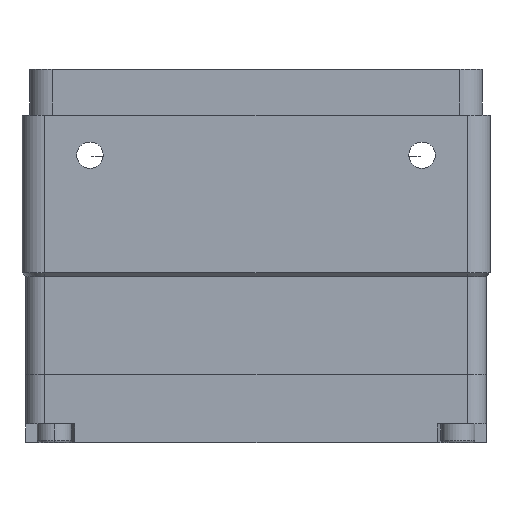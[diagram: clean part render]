
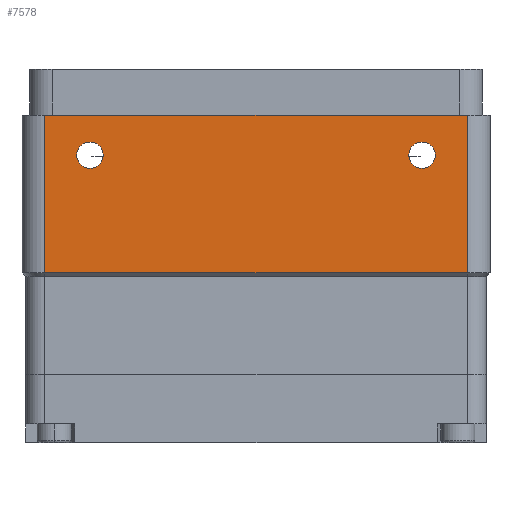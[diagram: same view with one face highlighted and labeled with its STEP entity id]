
A CAD part, left-side view. The second image highlights one B-rep face of the part: STEP entity #7578.
In plain terms, the highlighted planar face has unit normal (-1, 0, 0).
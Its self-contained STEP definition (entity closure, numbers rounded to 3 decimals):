
#305 = CIRCLE ( 'NONE', #12755, 1.75 ) ;
#697 = EDGE_CURVE ( 'NONE', #12706, #8759, #18362, .T. ) ;
#820 = ORIENTED_EDGE ( 'NONE', *, *, #9645, .F. ) ;
#831 = DIRECTION ( 'NONE',  ( 0., -1., 0. ) ) ;
#997 = DIRECTION ( 'NONE',  ( 0., 0., 1. ) ) ;
#1488 = CARTESIAN_POINT ( 'NONE',  ( -31., -22., -10.65 ) ) ;
#1565 = CARTESIAN_POINT ( 'NONE',  ( -31., 22., -10.65 ) ) ;
#1615 = VERTEX_POINT ( 'NONE', #1488 ) ;
#1680 = CARTESIAN_POINT ( 'NONE',  ( -31., 22., -8.9 ) ) ;
#1818 = DIRECTION ( 'NONE',  ( -1., 0., 0. ) ) ;
#1848 = ORIENTED_EDGE ( 'NONE', *, *, #6513, .T. ) ;
#1937 = CIRCLE ( 'NONE', #9732, 1.75 ) ;
#2257 = VERTEX_POINT ( 'NONE', #7879 ) ;
#2310 = LINE ( 'NONE', #11813, #5518 ) ;
#3083 = LINE ( 'NONE', #5738, #19222 ) ;
#3775 = ORIENTED_EDGE ( 'NONE', *, *, #11610, .T. ) ;
#3959 = DIRECTION ( 'NONE',  ( 1., 0., 0. ) ) ;
#4213 = AXIS2_PLACEMENT_3D ( 'NONE', #1680, #1818, #12776 ) ;
#5487 = FACE_OUTER_BOUND ( 'NONE', #13170, .T. ) ;
#5518 = VECTOR ( 'NONE', #7031, 1000. ) ;
#5738 = CARTESIAN_POINT ( 'NONE',  ( -31., 31., -24.48 ) ) ;
#5760 = VERTEX_POINT ( 'NONE', #9449 ) ;
#6028 = EDGE_CURVE ( 'NONE', #5760, #18681, #6760, .T. ) ;
#6210 = CARTESIAN_POINT ( 'NONE',  ( -31., 22., -8.9 ) ) ;
#6513 = EDGE_CURVE ( 'NONE', #5760, #2257, #2310, .T. ) ;
#6760 = LINE ( 'NONE', #7439, #15034 ) ;
#6881 = AXIS2_PLACEMENT_3D ( 'NONE', #6210, #8158, #14358 ) ;
#7031 = DIRECTION ( 'NONE',  ( 0., 0., -1. ) ) ;
#7192 = CARTESIAN_POINT ( 'NONE',  ( -31., -28., -30.46 ) ) ;
#7439 = CARTESIAN_POINT ( 'NONE',  ( -31., 31., -3.6 ) ) ;
#7578 = ADVANCED_FACE ( 'NONE', ( #14960, #12073, #5487 ), #8830, .F. ) ;
#7810 = CARTESIAN_POINT ( 'NONE',  ( -31., -22., -8.9 ) ) ;
#7879 = CARTESIAN_POINT ( 'NONE',  ( -31., 28., -24.48 ) ) ;
#8123 = VERTEX_POINT ( 'NONE', #16398 ) ;
#8158 = DIRECTION ( 'NONE',  ( -1., 0., 0. ) ) ;
#8219 = DIRECTION ( 'NONE',  ( 0., 0., -1. ) ) ;
#8759 = VERTEX_POINT ( 'NONE', #1565 ) ;
#8830 = PLANE ( 'NONE',  #11732 ) ;
#8986 = CARTESIAN_POINT ( 'NONE',  ( -31., 22., -7.15 ) ) ;
#9449 = CARTESIAN_POINT ( 'NONE',  ( -31., 28., -3.6 ) ) ;
#9645 = EDGE_CURVE ( 'NONE', #19757, #1615, #1937, .T. ) ;
#9732 = AXIS2_PLACEMENT_3D ( 'NONE', #7810, #18744, #10915 ) ;
#10449 = CARTESIAN_POINT ( 'NONE',  ( -31., -28., -3.6 ) ) ;
#10880 = ORIENTED_EDGE ( 'NONE', *, *, #13826, .F. ) ;
#10915 = DIRECTION ( 'NONE',  ( 0., 0., -1. ) ) ;
#11610 = EDGE_CURVE ( 'NONE', #2257, #8123, #3083, .T. ) ;
#11732 = AXIS2_PLACEMENT_3D ( 'NONE', #16564, #3959, #14837 ) ;
#11813 = CARTESIAN_POINT ( 'NONE',  ( -31., 28., -30.46 ) ) ;
#11983 = CARTESIAN_POINT ( 'NONE',  ( -31., -22., -7.15 ) ) ;
#12073 = FACE_BOUND ( 'NONE', #17078, .T. ) ;
#12706 = VERTEX_POINT ( 'NONE', #8986 ) ;
#12755 = AXIS2_PLACEMENT_3D ( 'NONE', #14421, #17511, #8219 ) ;
#12776 = DIRECTION ( 'NONE',  ( 0., 0., -1. ) ) ;
#13170 = EDGE_LOOP ( 'NONE', ( #17416, #1848, #3775, #14610 ) ) ;
#13796 = ORIENTED_EDGE ( 'NONE', *, *, #15497, .F. ) ;
#13826 = EDGE_CURVE ( 'NONE', #1615, #19757, #305, .T. ) ;
#13905 = ORIENTED_EDGE ( 'NONE', *, *, #697, .F. ) ;
#14358 = DIRECTION ( 'NONE',  ( 0., 0., -1. ) ) ;
#14421 = CARTESIAN_POINT ( 'NONE',  ( -31., -22., -8.9 ) ) ;
#14610 = ORIENTED_EDGE ( 'NONE', *, *, #18558, .T. ) ;
#14837 = DIRECTION ( 'NONE',  ( 0., 0., 1. ) ) ;
#14960 = FACE_BOUND ( 'NONE', #16651, .T. ) ;
#15034 = VECTOR ( 'NONE', #19879, 1000. ) ;
#15497 = EDGE_CURVE ( 'NONE', #8759, #12706, #18341, .T. ) ;
#16077 = VECTOR ( 'NONE', #997, 1000. ) ;
#16345 = LINE ( 'NONE', #7192, #16077 ) ;
#16398 = CARTESIAN_POINT ( 'NONE',  ( -31., -28., -24.48 ) ) ;
#16564 = CARTESIAN_POINT ( 'NONE',  ( -31., 31., -30.46 ) ) ;
#16651 = EDGE_LOOP ( 'NONE', ( #10880, #820 ) ) ;
#17078 = EDGE_LOOP ( 'NONE', ( #13796, #13905 ) ) ;
#17416 = ORIENTED_EDGE ( 'NONE', *, *, #6028, .F. ) ;
#17511 = DIRECTION ( 'NONE',  ( -1., 0., 0. ) ) ;
#18341 = CIRCLE ( 'NONE', #6881, 1.75 ) ;
#18362 = CIRCLE ( 'NONE', #4213, 1.75 ) ;
#18558 = EDGE_CURVE ( 'NONE', #8123, #18681, #16345, .T. ) ;
#18681 = VERTEX_POINT ( 'NONE', #10449 ) ;
#18744 = DIRECTION ( 'NONE',  ( -1., 0., 0. ) ) ;
#19222 = VECTOR ( 'NONE', #831, 1000. ) ;
#19757 = VERTEX_POINT ( 'NONE', #11983 ) ;
#19879 = DIRECTION ( 'NONE',  ( 0., -1., 0. ) ) ;
